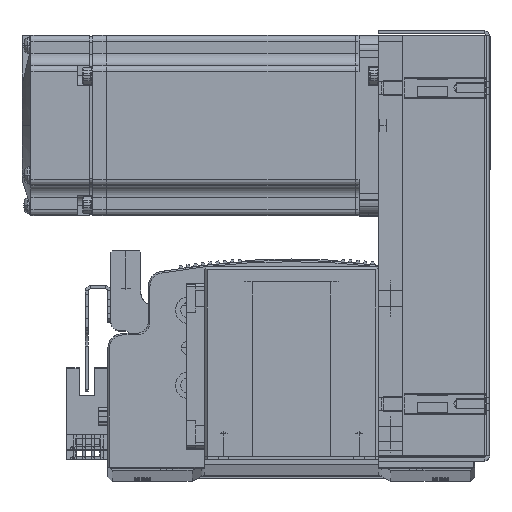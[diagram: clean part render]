
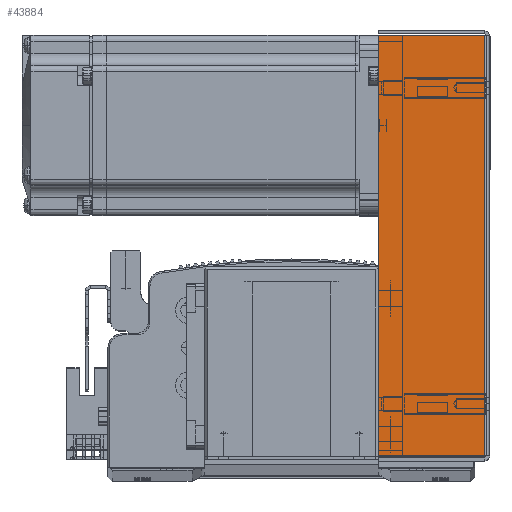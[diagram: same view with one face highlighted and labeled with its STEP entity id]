
A CAD part, top view. The second image highlights one B-rep face of the part: STEP entity #43884.
In plain terms, the highlighted planar face has unit normal (0, 0, 1) as drawn and (0, 0, -1) by its records, which use the part's own axes.
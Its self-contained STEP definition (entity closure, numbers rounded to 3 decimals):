
#2866 = CARTESIAN_POINT ( 'NONE',  ( -69.793, 36., -33.5 ) ) ;
#2867 = CARTESIAN_POINT ( 'NONE',  ( -69.793, 0.737, -33.5 ) ) ;
#3925 = DIRECTION ( 'NONE',  ( 1., 0., 0. ) ) ;
#3962 = CARTESIAN_POINT ( 'NONE',  ( 0., 36., -33.5 ) ) ;
#3972 = CARTESIAN_POINT ( 'NONE',  ( 71.5, 0.737, -33.5 ) ) ;
#3988 = DIRECTION ( 'NONE',  ( 1., 0., 0. ) ) ;
#4027 = DIRECTION ( 'NONE',  ( 0., 1., 0. ) ) ;
#4103 = CARTESIAN_POINT ( 'NONE',  ( -69.793, 0., -33.5 ) ) ;
#4176 = CARTESIAN_POINT ( 'NONE',  ( 69.793, 0., -33.5 ) ) ;
#4224 = DIRECTION ( 'NONE',  ( 0., 1., 0. ) ) ;
#8410 = CARTESIAN_POINT ( 'NONE',  ( 69.793, 36., -33.5 ) ) ;
#8417 = CARTESIAN_POINT ( 'NONE',  ( 69.793, 0.737, -33.5 ) ) ;
#8946 = VERTEX_POINT ( 'NONE', #2866 ) ;
#8947 = VERTEX_POINT ( 'NONE', #2867 ) ;
#9012 = VERTEX_POINT ( 'NONE', #8410 ) ;
#9014 = VERTEX_POINT ( 'NONE', #8417 ) ;
#13874 = EDGE_CURVE ( 'NONE', #8947, #9014, #40516, .T. ) ;
#13877 = EDGE_CURVE ( 'NONE', #8946, #9012, #40452, .T. ) ;
#13913 = EDGE_CURVE ( 'NONE', #8947, #8946, #40601, .T. ) ;
#13935 = EDGE_CURVE ( 'NONE', #9014, #9012, #40587, .T. ) ;
#36622 = FACE_OUTER_BOUND ( 'NONE', #97193, .T. ) ;
#40452 = LINE ( 'NONE', #3962, #40483 ) ;
#40483 = VECTOR ( 'NONE', #3925, 1000. ) ;
#40516 = LINE ( 'NONE', #3972, #40520 ) ;
#40520 = VECTOR ( 'NONE', #3988, 1000. ) ;
#40568 = VECTOR ( 'NONE', #4224, 1000. ) ;
#40587 = LINE ( 'NONE', #4176, #40568 ) ;
#40601 = LINE ( 'NONE', #4103, #40603 ) ;
#40603 = VECTOR ( 'NONE', #4027, 1000. ) ;
#43884 = ADVANCED_FACE ( 'NONE', ( #36622 ), #71537, .F. ) ;
#60290 = AXIS2_PLACEMENT_3D ( 'NONE', #71498, #71532, #71540 ) ;
#62216 = ORIENTED_EDGE ( 'NONE', *, *, #13877, .T. ) ;
#62223 = ORIENTED_EDGE ( 'NONE', *, *, #13935, .F. ) ;
#62227 = ORIENTED_EDGE ( 'NONE', *, *, #13913, .T. ) ;
#62268 = ORIENTED_EDGE ( 'NONE', *, *, #13874, .F. ) ;
#71498 = CARTESIAN_POINT ( 'NONE',  ( 0., 0., -33.5 ) ) ;
#71532 = DIRECTION ( 'NONE',  ( 0., 0., 1. ) ) ;
#71537 = PLANE ( 'NONE',  #60290 ) ;
#71540 = DIRECTION ( 'NONE',  ( 0., -1., 0. ) ) ;
#97193 = EDGE_LOOP ( 'NONE', ( #62268, #62227, #62216, #62223 ) ) ;
